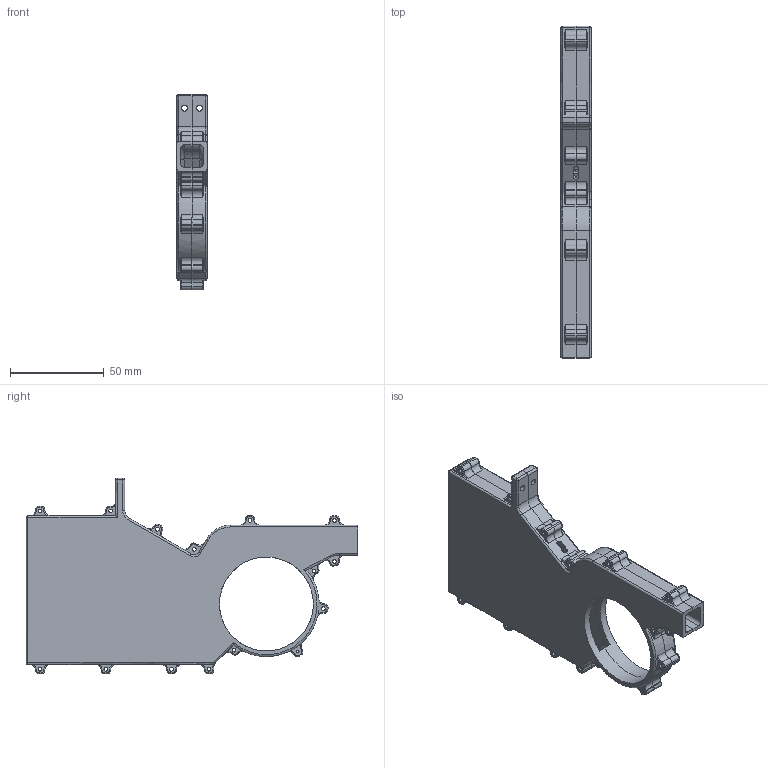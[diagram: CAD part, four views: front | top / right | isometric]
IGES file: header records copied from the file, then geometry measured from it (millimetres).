
Global section: file name: semoir v11; native system: unknown; preprocessor: unknown; author: unknown; organization: unknown; date: 20191209.141309; units: millimetre
Bounding box: 16 x 176.78 x 104.28 mm (x, y, z)
Volume: 60250.2 mm3; surface area: 55322.9 mm2
Topology: 4 solids, 4 shells, 557 faces, 1447 edges, 896 vertices
Faces by surface type: bspline 557
